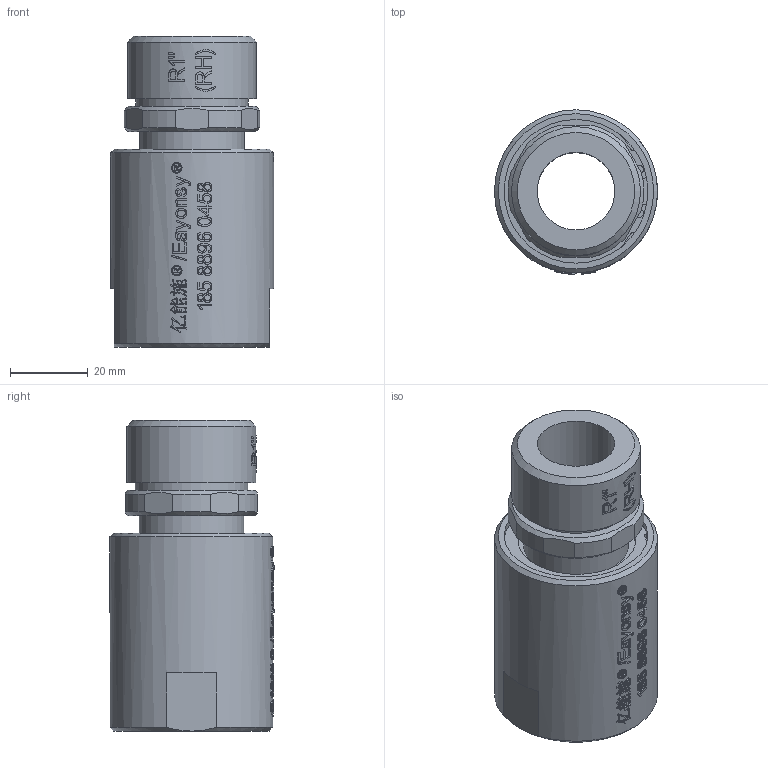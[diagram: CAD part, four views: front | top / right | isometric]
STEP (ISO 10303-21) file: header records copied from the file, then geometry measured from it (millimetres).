
FILE_DESCRIPTION(/* description */ (''),/* implementation_level */ '2;1');
FILE_NAME(/* name */ 'YQK0108(RH)-3D模型.stp',/* time_stamp */ '2025-07-09T10:18:32+08:00',/* author */ (''),/* organization */ (''),/* preprocessor_version */ 'ST-DEVELOPER v16.7',/* originating_system */ 'SIEMENS PLM Software NX 12.0',/* authorisation */ '');
FILE_SCHEMA (('AUTOMOTIVE_DESIGN { 1 0 10303 214 3 1 1 1 }'));
Products named in the file (1): Admi9AC4218F3zja
Bounding box: 42 x 42.3 x 80.1 mm (x, y, z)
Volume: 60815.7 mm3; surface area: 19367 mm2
Topology: 1 solids, 1 shells, 1020 faces, 2828 edges, 1886 vertices
Faces by surface type: extrusion 605, plane 314, cylinder 50, bspline 45, cone 6
Full cylindrical faces by diameter (mm): 2.364 x2, 20 x1, 27 x1, 29 x1, 30.3 x1, 33.2 x1, 37 x1, 39 x1, 42 x1
Entity records: 42531 total; most frequent: CARTESIAN_POINT 20924, ORIENTED_EDGE 5612, B_SPLINE_CURVE_WITH_KNOTS 2891, EDGE_CURVE 2806, DIRECTION 2104, VERTEX_POINT 1878, EDGE_LOOP 1112, ADVANCED_FACE 1020
